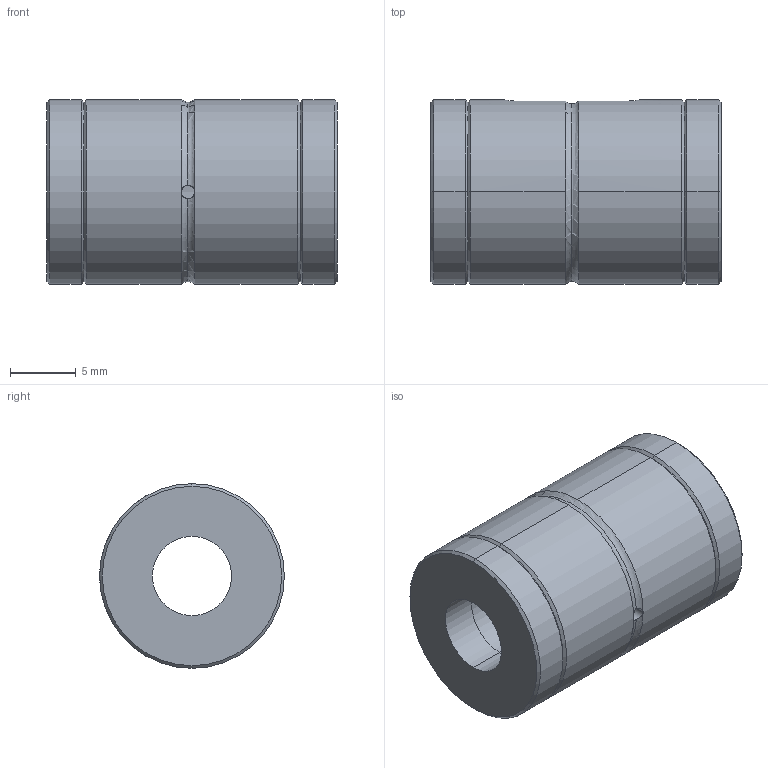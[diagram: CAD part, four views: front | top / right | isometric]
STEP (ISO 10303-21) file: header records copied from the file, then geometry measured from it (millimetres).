
FILE_DESCRIPTION (( 'STEP AP203' ), '1' );
FILE_NAME ('KLT006T3.STEP', '2023-08-11T07:24:26', ( 'Microsoft' ), ( 'Microsoft' ), 'SwSTEP 2.0', 'SolidWorks 2022', '' );
FILE_SCHEMA (( 'CONFIG_CONTROL_DESIGN' ));
Length unit declared in the file: millimetre
Products named in the file (4): 零件4^KLT006T3; 零件6^KLT006T3; 零件7^KLT006T3; KLT006T3
Assembly tree (3 placements, depth 2):
  KLT006T3
    零件4^KLT006T3
    零件6^KLT006T3
    零件7^KLT006T3
Bounding box: 22 x 14 x 14 mm (x, y, z)
Volume: 2721.5 mm3; surface area: 2145.3 mm2
Topology: 3 solids, 3 shells, 45 faces, 101 edges, 61 vertices
Faces by surface type: cylinder 18, cone 12, plane 9, torus 6
Entity records: 1772 total; most frequent: CARTESIAN_POINT 325, DIRECTION 242, ORIENTED_EDGE 202, AXIS2_PLACEMENT_3D 102, EDGE_CURVE 101, VERTEX_POINT 61, EDGE_LOOP 52, CIRCLE 51
